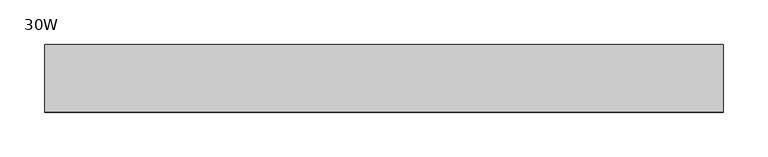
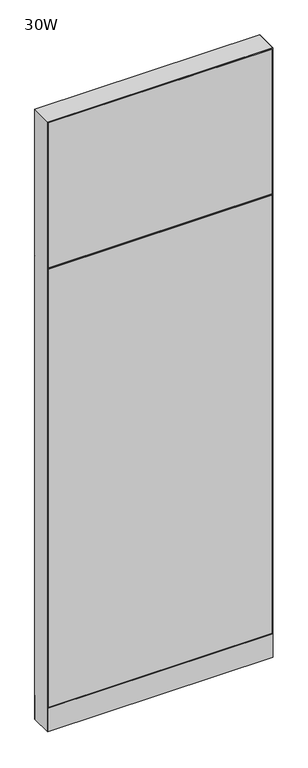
"""IFC4 building model written with IfcOpenShell, lengths in millimetres: furniture geometry, Steelcase - Montage - Frame - 86H - Enhanced Standard - Base Cavity : 30W."""

from ifc_helpers import new_model, si_unit, point, frame, frame_2d, origin, origin_with_axes, place, context, project, spatial, polyline, circle_curve, trimmed, segment, composite_curve, outline, extrude, faceted_brep, source, transform, mapped, element, save


def furniture_30w_bcd8921f(model_context):
    return source(origin(), model_context, "Body", "SolidModel", [
        faceted_brep([(-5.4e-06, 38.102627, 1660.5250027), (6.3499917, 31.7526299, 1666.8749997), (755.6500047, 31.7526299, 1666.8749997), (762.0, 38.1026253, 1660.5250044), (755.6500047, 31.7526299, 1654.1750003), (6.3499917, 31.7526299, 1654.1750003)], [[[0, 1, 2, 3]], [[3, 4, 5, 0]], [[1, 5, 4, 2]], [[0, 5, 1]], [[2, 4, 3]]]),
        extrude(outline(polyline([(3.175, 31.7500194), (3.175, 38.1000194), (758.825, 38.1000194), (758.825, 31.7500194), (3.175, 31.7500194)])), frame((0.0, 0.0, 92.075), z_axis=(0.0, 0.0, 1.0), x_axis=(1.0, 0.0, 0.0)), (0.0, 0.0, 1.0), 1565.275),
        extrude(outline(polyline([(3.175, 31.7500194), (3.175, 38.1000194), (758.825, 38.1000194), (758.825, 31.7500194), (3.175, 31.7500194)])), frame((0.0, 0.0, 1663.7), z_axis=(0.0, 0.0, 1.0), x_axis=(1.0, 0.0, 0.0)), (0.0, 0.0, 1.0), 517.525),
        faceted_brep([(0.0, -38.1026297, 1660.525), (762.0, -38.1026297, 1660.525), (755.6500047, -31.7526299, 1666.8749997), (6.3499917, -31.7526299, 1666.8749997), (6.3499917, -31.7526299, 1654.1750003), (755.6500047, -31.7526299, 1654.1750003)], [[[0, 1, 2, 3]], [[1, 0, 4, 5]], [[3, 2, 5, 4]], [[0, 3, 4]], [[2, 1, 5]]]),
        extrude(outline(polyline([(3.175, -31.7500194), (758.825, -31.7500194), (758.825, -38.1000194), (3.175, -38.1000194), (3.175, -31.7500194)])), frame((0.0, 0.0, 92.075), z_axis=(0.0, 0.0, 1.0), x_axis=(1.0, 0.0, 0.0)), (0.0, 0.0, 1.0), 1565.275),
        extrude(outline(polyline([(3.175, -31.7500194), (758.825, -31.7500194), (758.825, -38.1000194), (3.175, -38.1000194), (3.175, -31.7500194)])), frame((0.0, 0.0, 1663.7), z_axis=(0.0, 0.0, 1.0), x_axis=(1.0, 0.0, 0.0)), (0.0, 0.0, 1.0), 517.525),
        extrude(outline(polyline([(6.350003, -31.7499985), (755.649997, -31.7499985), (762.0, -38.1000015), (0.0, -38.1000015), (6.350003, -31.7499985)])), frame((0.0, 0.0, 4.064), z_axis=(0.0, 0.0, 1.0), x_axis=(1.0, 0.0, 0.0)), (0.0, 0.0, 1.0), 84.835997),
        extrude(outline(polyline([(6.3500002, 31.7500017), (0.0, 38.1000015), (762.0, 38.1000015), (755.6500002, 31.7500017), (6.3500002, 31.7500017)])), frame((0.0, 0.0, 4.064), z_axis=(0.0, 0.0, 1.0), x_axis=(1.0, 0.0, 0.0)), (0.0, 0.0, 1.0), 84.835997),
        faceted_brep([(762.0, -38.1000015, 2184.4), (0.0, -38.1000015, 2184.4), (6.3500484, -31.749953, 2178.0499516), (755.6499516, -31.749953, 2178.0499516), (6.3500484, 31.749953, 2178.0499516), (755.6499516, 31.749953, 2178.0499516), (0.0, 38.1000015, 2184.4), (762.0, 38.1000015, 2184.4)], [[[0, 1, 2, 3]], [[3, 2, 4, 5]], [[6, 7, 5, 4]], [[1, 0, 7, 6]], [[2, 1, 6, 4]], [[0, 3, 5, 7]]]),
        extrude(outline(composite_curve([segment(trimmed(circle_curve(frame_2d((44.45, 0.0)), 15.24), [point((29.21, 0.0))], [point((59.69, 0.0))], False, "CARTESIAN"), True, "CONTINUOUS"), segment(trimmed(circle_curve(frame_2d((44.45, 0.0)), 15.24), [point((59.69, 0.0))], [point((29.21, 0.0))], False, "CARTESIAN"), True, "CONTINUOUS")], self_intersect=False)), origin_with_axes(), (0.0, 0.0, 1.0), 4.064),
        extrude(outline(composite_curve([segment(trimmed(circle_curve(frame_2d((717.55, 0.0)), 15.24), [point((702.31, 0.0))], [point((732.79, 0.0))], False, "CARTESIAN"), True, "CONTINUOUS"), segment(trimmed(circle_curve(frame_2d((717.55, 0.0)), 15.24), [point((732.79, 0.0))], [point((702.31, 0.0))], False, "CARTESIAN"), True, "CONTINUOUS")], self_intersect=False)), origin_with_axes(), (0.0, 0.0, 1.0), 4.064),
        faceted_brep([(762.0, -38.1000106, 4.064), (762.0, 38.1000015, 4.064), (762.0, 38.1000015, 2184.4), (762.0, -38.1000106, 2184.3999637), (0.0, 38.1000015, 4.064), (0.0, -38.1000015, 4.064), (0.0, -38.1000015, 2184.4), (0.0, 38.1000015, 2184.4), (755.6499879, 31.7500017, 606.425), (6.35, 31.7500017, 606.425), (6.3499998, 31.7500017, 619.125), (755.6499879, 31.7500017, 619.125), (6.35, -31.7499985, 619.125), (755.6499879, -31.7499985, 619.125), (6.350003, -31.7499985, 606.425), (755.6499879, -31.7499985, 606.425), (755.6499879, 31.7500017, 1130.3), (6.35, 31.7500017, 1130.3), (6.3499998, 31.7500017, 1143.0), (755.6499879, 31.7500017, 1143.0), (6.35, -31.7499985, 1143.0), (755.6499879, -31.7499985, 1143.0), (6.350003, -31.7499985, 1130.3), (755.6499879, -31.7499985, 1130.3), (755.6499879, 31.7500017, 1654.175), (6.35, 31.7500017, 1654.175), (6.3499998, 31.7500017, 1666.875), (755.6499879, 31.7500017, 1666.875), (6.35, -31.7499985, 1666.875), (755.6499879, -31.7499985, 1666.875), (6.350003, -31.7499985, 1654.175), (755.6499879, -31.7499985, 1654.175), (6.35, 31.7500015, 4.064), (6.35, -31.7500015, 4.064), (755.6499879, 31.7499894, 4.064), (755.6499879, -31.7499985, 4.064), (6.35, 31.7500015, 2178.05), (6.35, -31.7500015, 2178.05), (755.6499879, -31.7499985, 2178.0499516), (755.6499879, 31.7499895, 2178.0499516)], [[[0, 1, 2, 3]], [[4, 5, 6, 7]], [[8, 9, 10, 11]], [[11, 10, 12, 13]], [[13, 12, 14, 15]], [[9, 8, 15, 14]], [[16, 17, 18, 19]], [[19, 18, 20, 21]], [[21, 20, 22, 23]], [[17, 16, 23, 22]], [[24, 25, 26, 27]], [[27, 26, 28, 29]], [[29, 28, 30, 31]], [[25, 24, 31, 30]], [[32, 33, 5, 4]], [[34, 1, 0, 35]], [[32, 4, 7, 36, 26, 25, 18, 17, 10, 9]], [[5, 33, 14, 12, 22, 20, 30, 28, 37, 6]], [[28, 26, 36, 37]], [[33, 32, 9, 14]], [[18, 25, 30, 20]], [[10, 17, 22, 12]], [[27, 29, 38, 39]], [[34, 35, 15, 8]], [[16, 11, 13, 23]], [[24, 19, 21, 31]], [[35, 0, 3, 38, 29, 31, 21, 23, 13, 15]], [[1, 34, 8, 11, 16, 19, 24, 27, 39, 2]], [[7, 6, 37, 36]], [[3, 2, 39, 38]]]),
    ])


if __name__ == "__main__":
    model = new_model("IFC4")
    model_context = context("Model", 3, world=origin())
    ifc_project = project(units=[si_unit("LENGTHUNIT", "METRE", prefix="MILLI")], contexts=[model_context])
    site = spatial("IfcSite", under=ifc_project)
    building = spatial("IfcBuilding", under=site)
    placement = place(None, origin())
    furniture_30w_shape = furniture_30w_bcd8921f(model_context)
    element("IfcFurniture", 1, ObjectType="Steelcase - Montage - Frame - 86H - Enhanced Standard - Base Cavity : 30W", at=placement, inside=building, context=model_context, shape_type="MappedRepresentation", body=[
        mapped(furniture_30w_shape, transform((0.0, 0.0, 0.0), x_axis=(1.0, 0.0, 0.0), y_axis=(0.0, 1.0, 0.0), z_axis=(0.0, 0.0, 1.0))),
    ])
    save(model, "model.ifc")
